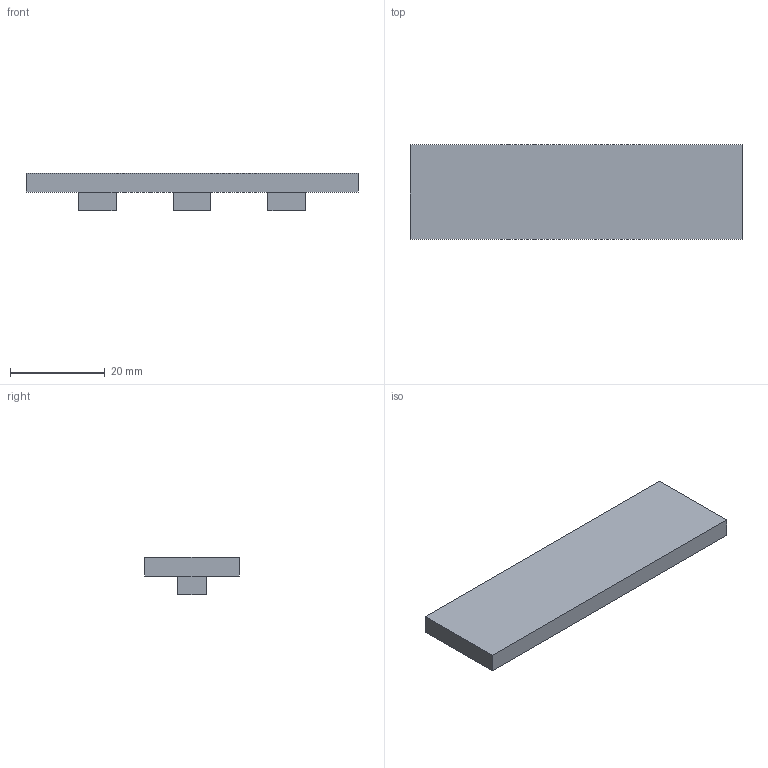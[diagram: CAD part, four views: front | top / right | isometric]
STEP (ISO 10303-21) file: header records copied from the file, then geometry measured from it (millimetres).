
FILE_DESCRIPTION(('Open CASCADE Model'),'2;1');
FILE_NAME('CP-SLIDER-TONGUES','2026-11-15T22:30:29',('Author'),( 'Open CASCADE'),'Open CASCADE STEP processor 8.0','build123d', 'Unknown');
FILE_SCHEMA(('AUTOMOTIVE_DESIGN { 1 0 10303 214 1 1 1 1 }'));
Length unit declared in the file: millimetre
Products named in the file (1): CP-SLIDER-TONGUES
Bounding box: 70 x 20 x 8 mm (x, y, z)
Volume: 6176 mm3; surface area: 3856 mm2
Topology: 1 solids, 1 shells, 21 faces, 48 edges, 32 vertices
Faces by surface type: plane 21
Entity records: 1216 total; most frequent: CARTESIAN_POINT 198, DIRECTION 188, LINE 144, VECTOR 144, ORIENTED_EDGE 96, PCURVE 96, DEFINITIONAL_REPRESENTATION 96, EDGE_CURVE 48
